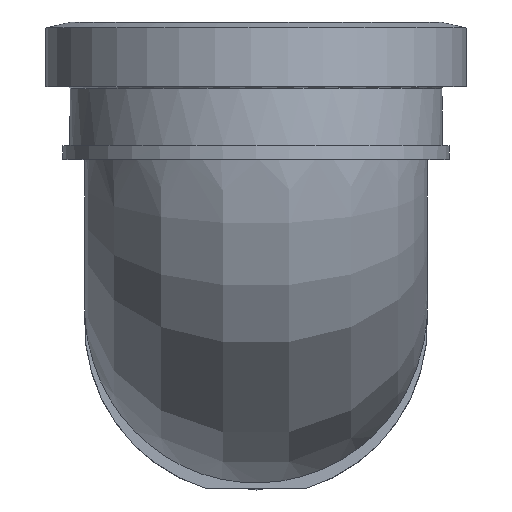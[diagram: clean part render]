
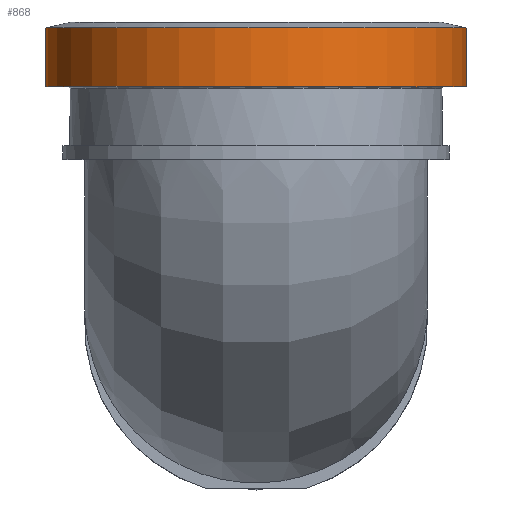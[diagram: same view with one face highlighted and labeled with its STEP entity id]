
A CAD part, top view. The second image highlights one B-rep face of the part: STEP entity #868.
In plain terms, the highlighted cylindrical face has radius 55.498 mm (diameter 110.995 mm), a full revolution.
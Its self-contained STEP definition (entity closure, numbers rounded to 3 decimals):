
#25=CYLINDRICAL_SURFACE('',#979,55.498);
#161=FACE_BOUND('',#251,.T.);
#186=FACE_OUTER_BOUND('',#250,.T.);
#250=EDGE_LOOP('',(#670));
#251=EDGE_LOOP('',(#671));
#318=CIRCLE('',#978,55.498);
#319=CIRCLE('',#980,55.498);
#422=VERTEX_POINT('',#2738);
#423=VERTEX_POINT('',#2741);
#519=EDGE_CURVE('',#422,#422,#318,.T.);
#520=EDGE_CURVE('',#423,#423,#319,.T.);
#670=ORIENTED_EDGE('',*,*,#519,.F.);
#671=ORIENTED_EDGE('',*,*,#520,.T.);
#868=ADVANCED_FACE('',(#186,#161),#25,.T.);
#978=AXIS2_PLACEMENT_3D('',#2739,#1155,#1156);
#979=AXIS2_PLACEMENT_3D('',#2740,#1157,#1158);
#980=AXIS2_PLACEMENT_3D('',#2742,#1159,#1160);
#1155=DIRECTION('center_axis',(0.,1.,0.));
#1156=DIRECTION('ref_axis',(0.479,0.,0.878));
#1157=DIRECTION('center_axis',(0.,1.,0.));
#1158=DIRECTION('ref_axis',(0.479,0.,0.878));
#1159=DIRECTION('center_axis',(0.,1.,0.));
#1160=DIRECTION('ref_axis',(0.479,0.,0.878));
#2738=CARTESIAN_POINT('',(-26.607,76.187,177.294));
#2739=CARTESIAN_POINT('Origin',(0.,76.187,225.998));
#2740=CARTESIAN_POINT('Origin',(0.,59.601,225.998));
#2741=CARTESIAN_POINT('',(-26.607,60.688,177.294));
#2742=CARTESIAN_POINT('Origin',(0.,60.688,225.998));
